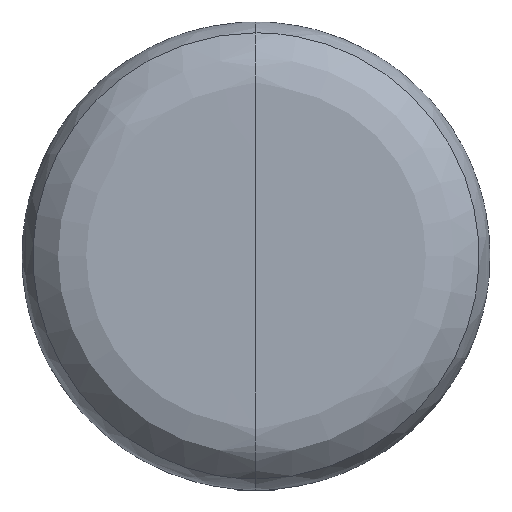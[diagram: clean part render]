
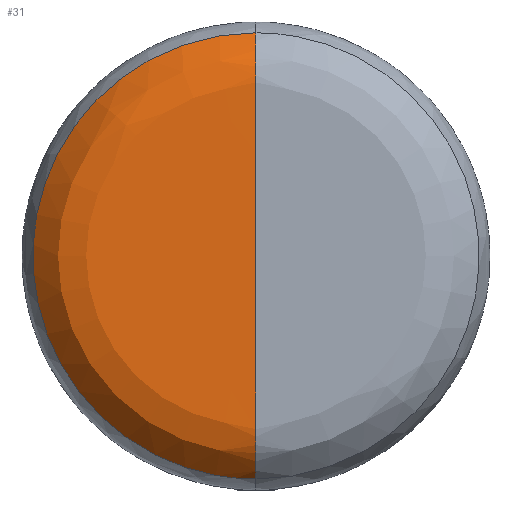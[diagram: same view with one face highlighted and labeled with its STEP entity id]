
A CAD part, top view. The second image highlights one B-rep face of the part: STEP entity #31.
In plain terms, the highlighted free-form (B-spline) face has degree [2, 2] with [7, 5] control points.
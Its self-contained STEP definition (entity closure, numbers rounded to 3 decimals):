
#31=ADVANCED_FACE('',(#167),#1827,.T.);
#167=FACE_OUTER_BOUND('',#303,.T.);
#303=EDGE_LOOP('',(#451,#452,#453));
#451=ORIENTED_EDGE('',*,*,#1051,.T.);
#452=ORIENTED_EDGE('',*,*,#1052,.T.);
#453=ORIENTED_EDGE('',*,*,#1042,.F.);
#1042=EDGE_CURVE('',#1650,#1652,#1388,.T.);
#1051=EDGE_CURVE('',#1650,#1656,#1395,.T.);
#1052=EDGE_CURVE('',#1656,#1652,#1396,.T.);
#1388=(
BOUNDED_CURVE()
B_SPLINE_CURVE(2,(#2280,#2281,#2282,#2283,#2284,#2285,#2286),
 .UNSPECIFIED.,.F.,.F.)
B_SPLINE_CURVE_WITH_KNOTS((3,2,2,3),(665.086,817.504,
843.982,875.114),.UNSPECIFIED.)
CURVE()
GEOMETRIC_REPRESENTATION_ITEM()
RATIONAL_B_SPLINE_CURVE((1.,1.,1.,0.965,1.,0.976,
1.))
REPRESENTATION_ITEM('')
);
#1395=(
BOUNDED_CURVE()
B_SPLINE_CURVE(2,(#2330,#2331,#2332,#2333,#2334,#2335,#2336),
 .UNSPECIFIED.,.F.,.F.)
B_SPLINE_CURVE_WITH_KNOTS((3,2,2,3),(665.086,817.504,
843.982,875.114),.UNSPECIFIED.)
CURVE()
GEOMETRIC_REPRESENTATION_ITEM()
RATIONAL_B_SPLINE_CURVE((1.,1.,1.,0.965,1.,0.976,
1.))
REPRESENTATION_ITEM('')
);
#1396=(
BOUNDED_CURVE()
B_SPLINE_CURVE(2,(#2337,#2338,#2339,#2340,#2341),.UNSPECIFIED.,.F.,.F.)
B_SPLINE_CURVE_WITH_KNOTS((3,2,3),(659.6,989.4,1319.2),
 .UNSPECIFIED.)
CURVE()
GEOMETRIC_REPRESENTATION_ITEM()
RATIONAL_B_SPLINE_CURVE((1.,0.707,1.,0.707,1.))
REPRESENTATION_ITEM('')
);
#1650=VERTEX_POINT('',#2272);
#1652=VERTEX_POINT('',#2274);
#1656=VERTEX_POINT('',#2278);
#1827=(
BOUNDED_SURFACE()
B_SPLINE_SURFACE(2,2,((#2142,#2143,#2144,#2145,#2146),(#2147,#2148,#2149,
#2150,#2151),(#2152,#2153,#2154,#2155,#2156),(#2157,#2158,#2159,#2160,#2161),
(#2162,#2163,#2164,#2165,#2166),(#2167,#2168,#2169,#2170,#2171),(#2172,
#2173,#2174,#2175,#2176)),.UNSPECIFIED.,.F.,.F.,.F.)
B_SPLINE_SURFACE_WITH_KNOTS((3,2,2,3),(3,2,3),(665.086,817.504,
843.982,875.114),(659.6,989.4,1319.2),
 .UNSPECIFIED.)
GEOMETRIC_REPRESENTATION_ITEM()
RATIONAL_B_SPLINE_SURFACE(((1.,0.707,1.,0.707,1.),
(1.,0.707,1.,0.707,1.),(1.,0.707,1.,
0.707,1.),(0.965,0.682,0.965,
0.682,0.965),(1.,0.707,1.,0.707,
1.),(0.976,0.69,0.976,0.69,
0.976),(1.,0.707,1.,0.707,1.)))
REPRESENTATION_ITEM('')
SURFACE()
);
#2142=CARTESIAN_POINT('',(0.,0.,435.));
#2143=CARTESIAN_POINT('',(0.,0.,435.));
#2144=CARTESIAN_POINT('',(0.,0.,435.));
#2145=CARTESIAN_POINT('',(0.,0.,435.));
#2146=CARTESIAN_POINT('',(0.,0.,435.));
#2147=CARTESIAN_POINT('',(0.,76.209,435.));
#2148=CARTESIAN_POINT('',(-76.209,76.209,435.));
#2149=CARTESIAN_POINT('',(-76.209,0.,435.));
#2150=CARTESIAN_POINT('',(-76.209,-76.209,435.));
#2151=CARTESIAN_POINT('',(0.,-76.209,435.));
#2152=CARTESIAN_POINT('',(0.,152.418,435.));
#2153=CARTESIAN_POINT('',(-152.418,152.418,435.));
#2154=CARTESIAN_POINT('',(-152.418,0.,435.));
#2155=CARTESIAN_POINT('',(-152.418,-152.418,435.));
#2156=CARTESIAN_POINT('',(0.,-152.418,435.));
#2157=CARTESIAN_POINT('',(0.,165.976,435.));
#2158=CARTESIAN_POINT('',(-165.976,165.976,435.));
#2159=CARTESIAN_POINT('',(-165.976,0.,435.));
#2160=CARTESIAN_POINT('',(-165.976,-165.976,435.));
#2161=CARTESIAN_POINT('',(0.,-165.976,435.));
#2162=CARTESIAN_POINT('',(0.,177.676,428.151));
#2163=CARTESIAN_POINT('',(-177.676,177.676,428.151));
#2164=CARTESIAN_POINT('',(-177.676,0.,428.151));
#2165=CARTESIAN_POINT('',(-177.676,-177.676,428.151));
#2166=CARTESIAN_POINT('',(0.,-177.676,428.151));
#2167=CARTESIAN_POINT('',(0.,191.334,420.157));
#2168=CARTESIAN_POINT('',(-191.334,191.334,420.157));
#2169=CARTESIAN_POINT('',(-191.334,0.,420.157));
#2170=CARTESIAN_POINT('',(-191.334,-191.334,420.157));
#2171=CARTESIAN_POINT('',(0.,-191.334,420.157));
#2172=CARTESIAN_POINT('',(0.,200.245,407.078));
#2173=CARTESIAN_POINT('',(-200.245,200.245,407.078));
#2174=CARTESIAN_POINT('',(-200.245,0.,407.078));
#2175=CARTESIAN_POINT('',(-200.245,-200.245,407.078));
#2176=CARTESIAN_POINT('',(0.,-200.245,407.078));
#2272=CARTESIAN_POINT('',(0.,0.,435.));
#2274=CARTESIAN_POINT('',(0.,-200.245,407.078));
#2278=CARTESIAN_POINT('',(0.,200.245,407.078));
#2280=CARTESIAN_POINT('',(0.,0.,435.));
#2281=CARTESIAN_POINT('',(0.,-76.209,435.));
#2282=CARTESIAN_POINT('',(0.,-152.418,435.));
#2283=CARTESIAN_POINT('',(0.,-165.976,435.));
#2284=CARTESIAN_POINT('',(0.,-177.676,428.151));
#2285=CARTESIAN_POINT('',(0.,-191.334,420.157));
#2286=CARTESIAN_POINT('',(0.,-200.245,407.078));
#2330=CARTESIAN_POINT('',(0.,0.,435.));
#2331=CARTESIAN_POINT('',(0.,76.209,435.));
#2332=CARTESIAN_POINT('',(0.,152.418,435.));
#2333=CARTESIAN_POINT('',(0.,165.976,435.));
#2334=CARTESIAN_POINT('',(0.,177.676,428.151));
#2335=CARTESIAN_POINT('',(0.,191.334,420.157));
#2336=CARTESIAN_POINT('',(0.,200.245,407.078));
#2337=CARTESIAN_POINT('',(0.,200.245,407.078));
#2338=CARTESIAN_POINT('',(-200.245,200.245,407.078));
#2339=CARTESIAN_POINT('',(-200.245,0.,407.078));
#2340=CARTESIAN_POINT('',(-200.245,-200.245,407.078));
#2341=CARTESIAN_POINT('',(0.,-200.245,407.078));
